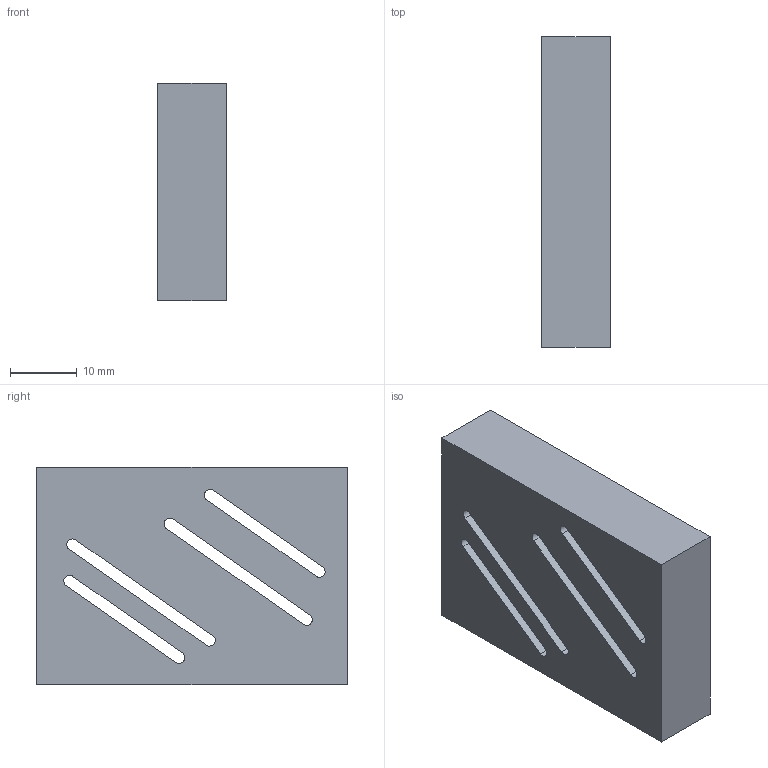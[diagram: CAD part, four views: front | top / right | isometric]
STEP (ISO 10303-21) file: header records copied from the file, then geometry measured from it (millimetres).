
FILE_DESCRIPTION (( 'STEP AP214' ), '1' );
FILE_NAME ('esp_cam_top.STEP', '2025-11-06T14:25:52', ( '' ), ( '' ), 'SwSTEP 2.0', 'SolidWorks 2023', '' );
FILE_SCHEMA (( 'AUTOMOTIVE_DESIGN' ));
Length unit declared in the file: millimetre
Products named in the file (1): esp_cam_top
Bounding box: 10.26 x 46.5 x 32.5 mm (x, y, z)
Volume: 4011.8 mm3; surface area: 5946.6 mm2
Topology: 1 solids, 1 shells, 47 faces, 126 edges, 84 vertices
Faces by surface type: plane 29, cylinder 18
Entity records: 1515 total; most frequent: DIRECTION 258, CARTESIAN_POINT 258, ORIENTED_EDGE 252, EDGE_CURVE 126, VECTOR 90, LINE 90, AXIS2_PLACEMENT_3D 84, VERTEX_POINT 84
